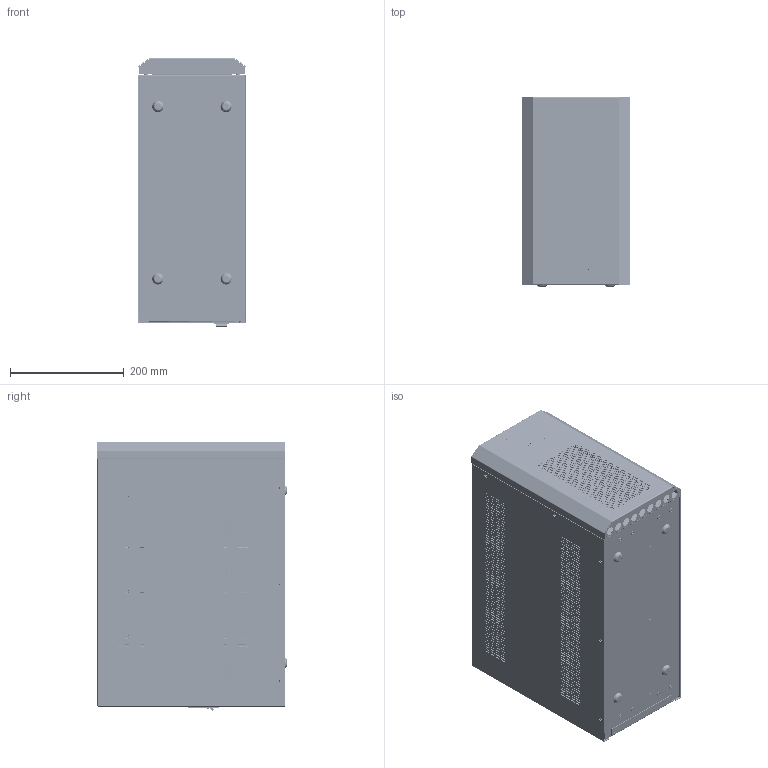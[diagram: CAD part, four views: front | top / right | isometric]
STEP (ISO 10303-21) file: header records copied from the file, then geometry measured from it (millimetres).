
FILE_DESCRIPTION (( 'STEP AP203' ), '1' );
FILE_NAME ('BPSMLT2-3-72-96V.STEP', '2025-04-28T11:49:02', ( '' ), ( '' ), 'SwSTEP 2.0', 'SolidWorks 2022', '' );
FILE_SCHEMA (( 'CONFIG_CONTROL_DESIGN' ));
Products named in the file (1): BPSMLT2-3-72-96V
Bounding box: 191 x 333 x 475.49 mm (x, y, z)
Surface area: 3389370.1 mm2 (no closed solid volume)
Topology: 0 solids, 223 shells, 14885 faces, 40506 edges, 26270 vertices
Faces by surface type: plane 9687, cylinder 4281, sphere 352, bspline 281, cone 236, torus 48
Entity records: 518457 total; most frequent: CARTESIAN_POINT 134687, ORIENTED_EDGE 80652, DIRECTION 74841, EDGE_CURVE 40466, LINE 29819, VECTOR 29819, VERTEX_POINT 26270, AXIS2_PLACEMENT_3D 22511
